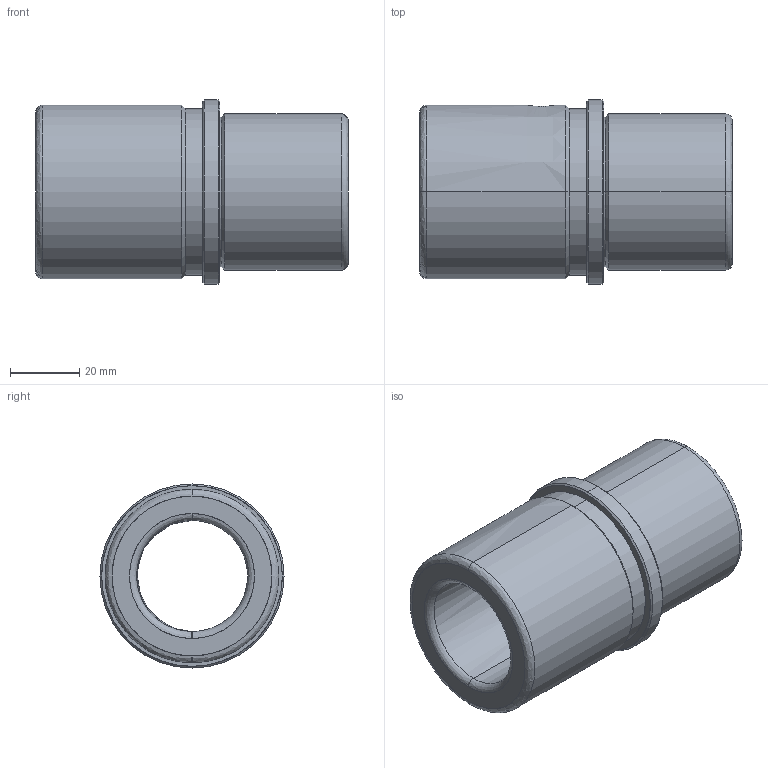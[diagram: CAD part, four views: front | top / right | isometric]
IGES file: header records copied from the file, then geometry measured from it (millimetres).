
Start section: START RECORD GO HERE.
Global section: file name: FAMO-SF1-D32 x 90.igs; native system: DASSAULT SYSTEMES CATIA V5 R20 - www.3ds.com; preprocessor: CATIA Version 5 Release 20 ; author: Utente; organization: NB04-ASUS; date: 20210106.174633; units: millimetre
Bounding box: 90 x 53 x 53 mm (x, y, z)
Surface area: 25625.3 mm2 (no closed solid volume)
Topology: 0 solids, 0 shells, 37 faces, 252 edges, 252 vertices
Faces by surface type: revolution 32, plane 5
